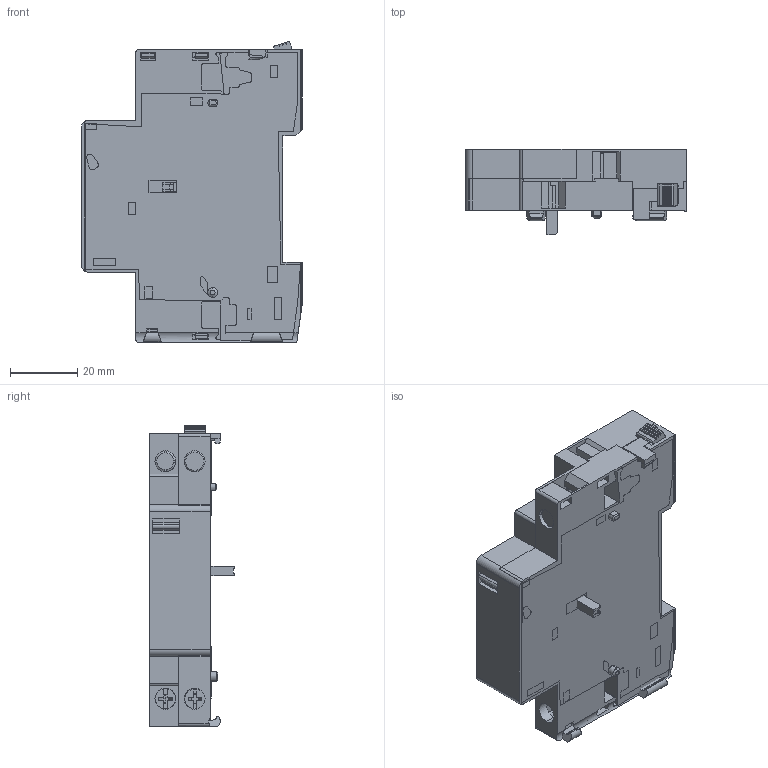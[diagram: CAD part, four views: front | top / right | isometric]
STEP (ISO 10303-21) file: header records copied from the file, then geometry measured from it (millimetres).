
FILE_DESCRIPTION((''),'2;1');
FILE_NAME('NS2-SH','2022-03-06T09:33:28',('lishuai1'),(''),'CREO PARAMETRIC BY PTC INC, 2020044','CREO PARAMETRIC BY PTC INC, 2020044','');
FILE_SCHEMA(('CONFIG_CONTROL_DESIGN','SHAPE_APPEARANCE_LAYERS_GROUPS'));
Length unit declared in the file: millimetre
Products named in the file (1): NS2-SH
Bounding box: 65.5 x 25.2 x 89.19 mm (x, y, z)
Surface area: 25515.3 mm2 (no closed solid volume)
Topology: 0 solids, 17 shells, 473 faces, 1977 edges, 1474 vertices
Faces by surface type: plane 346, cylinder 99, torus 16, cone 12
Entity records: 20683 total; most frequent: CARTESIAN_POINT 4654, DIRECTION 3135, ORIENTED_EDGE 3032, EDGE_CURVE 1977, VECTOR 1563, LINE 1563, VERTEX_POINT 1474, AXIS2_PLACEMENT_3D 786
